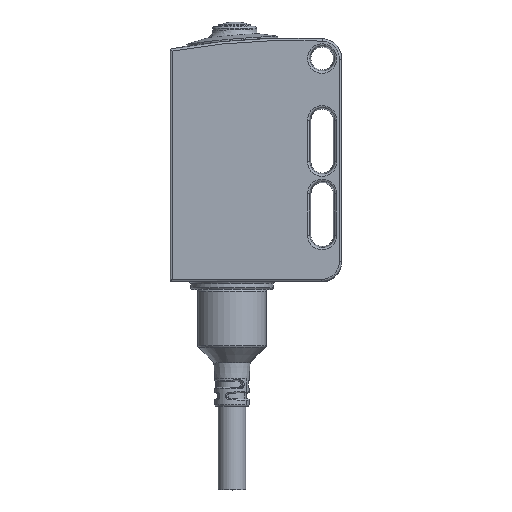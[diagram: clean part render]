
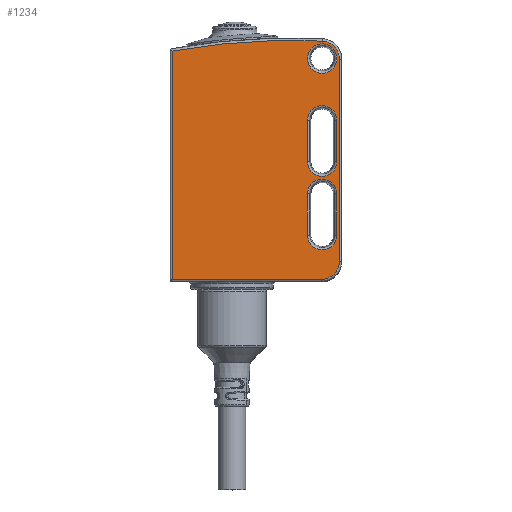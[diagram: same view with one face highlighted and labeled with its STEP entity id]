
A CAD part, top view. The second image highlights one B-rep face of the part: STEP entity #1234.
In plain terms, the highlighted planar face has unit normal (0, 0, 1).
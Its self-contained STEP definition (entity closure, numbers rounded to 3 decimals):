
#827=LINE('',#4710,#947);
#828=LINE('',#4715,#948);
#829=LINE('',#4718,#949);
#830=LINE('',#4723,#950);
#831=LINE('',#4731,#951);
#832=LINE('',#4733,#952);
#833=LINE('',#4737,#953);
#947=VECTOR('',#3643,1.);
#948=VECTOR('',#3646,1.);
#949=VECTOR('',#3649,1.);
#950=VECTOR('',#3652,1.);
#951=VECTOR('',#3659,1.);
#952=VECTOR('',#3660,1.);
#953=VECTOR('',#3663,1.);
#1234=ADVANCED_FACE('',(#1431,#1432,#1433,#1434),#1386,.T.);
#1386=PLANE('',#3258);
#1431=FACE_BOUND('',#1524,.T.);
#1432=FACE_BOUND('',#1525,.T.);
#1433=FACE_BOUND('',#1526,.T.);
#1434=FACE_BOUND('',#1527,.T.);
#1524=EDGE_LOOP('',(#1824));
#1525=EDGE_LOOP('',(#1825,#1826,#1827,#1828));
#1526=EDGE_LOOP('',(#1829,#1830,#1831,#1832));
#1527=EDGE_LOOP('',(#1833,#1834,#1835,#1836,#1837,#1838));
#1824=ORIENTED_EDGE('',*,*,#2796,.T.);
#1825=ORIENTED_EDGE('',*,*,#2797,.T.);
#1826=ORIENTED_EDGE('',*,*,#2798,.T.);
#1827=ORIENTED_EDGE('',*,*,#2799,.T.);
#1828=ORIENTED_EDGE('',*,*,#2800,.T.);
#1829=ORIENTED_EDGE('',*,*,#2801,.T.);
#1830=ORIENTED_EDGE('',*,*,#2802,.T.);
#1831=ORIENTED_EDGE('',*,*,#2803,.T.);
#1832=ORIENTED_EDGE('',*,*,#2804,.T.);
#1833=ORIENTED_EDGE('',*,*,#2805,.T.);
#1834=ORIENTED_EDGE('',*,*,#2806,.T.);
#1835=ORIENTED_EDGE('',*,*,#2807,.T.);
#1836=ORIENTED_EDGE('',*,*,#2808,.T.);
#1837=ORIENTED_EDGE('',*,*,#2809,.T.);
#1838=ORIENTED_EDGE('',*,*,#2810,.T.);
#2539=VERTEX_POINT('',#4709);
#2540=VERTEX_POINT('',#4711);
#2541=VERTEX_POINT('',#4712);
#2542=VERTEX_POINT('',#4714);
#2543=VERTEX_POINT('',#4716);
#2544=VERTEX_POINT('',#4719);
#2545=VERTEX_POINT('',#4720);
#2546=VERTEX_POINT('',#4722);
#2547=VERTEX_POINT('',#4724);
#2548=VERTEX_POINT('',#4727);
#2549=VERTEX_POINT('',#4728);
#2550=VERTEX_POINT('',#4730);
#2551=VERTEX_POINT('',#4732);
#2552=VERTEX_POINT('',#4734);
#2553=VERTEX_POINT('',#4736);
#2796=EDGE_CURVE('',#2539,#2539,#3101,.T.);
#2797=EDGE_CURVE('',#2540,#2541,#827,.T.);
#2798=EDGE_CURVE('',#2541,#2542,#3102,.T.);
#2799=EDGE_CURVE('',#2542,#2543,#828,.T.);
#2800=EDGE_CURVE('',#2543,#2540,#3103,.T.);
#2801=EDGE_CURVE('',#2544,#2545,#829,.T.);
#2802=EDGE_CURVE('',#2545,#2546,#3104,.T.);
#2803=EDGE_CURVE('',#2546,#2547,#830,.T.);
#2804=EDGE_CURVE('',#2547,#2544,#3105,.T.);
#2805=EDGE_CURVE('',#2548,#2549,#3106,.T.);
#2806=EDGE_CURVE('',#2549,#2550,#3107,.T.);
#2807=EDGE_CURVE('',#2550,#2551,#831,.T.);
#2808=EDGE_CURVE('',#2551,#2552,#832,.T.);
#2809=EDGE_CURVE('',#2552,#2553,#3108,.T.);
#2810=EDGE_CURVE('',#2553,#2548,#833,.T.);
#3101=CIRCLE('',#3250,2.141);
#3102=CIRCLE('',#3251,2.141);
#3103=CIRCLE('',#3252,2.141);
#3104=CIRCLE('',#3253,2.141);
#3105=CIRCLE('',#3254,2.141);
#3106=CIRCLE('',#3255,2.642);
#3107=CIRCLE('',#3256,99.642);
#3108=CIRCLE('',#3257,2.642);
#3250=AXIS2_PLACEMENT_3D('',#4708,#3641,#3642);
#3251=AXIS2_PLACEMENT_3D('',#4713,#3644,#3645);
#3252=AXIS2_PLACEMENT_3D('',#4717,#3647,#3648);
#3253=AXIS2_PLACEMENT_3D('',#4721,#3650,#3651);
#3254=AXIS2_PLACEMENT_3D('',#4725,#3653,#3654);
#3255=AXIS2_PLACEMENT_3D('',#4726,#3655,#3656);
#3256=AXIS2_PLACEMENT_3D('',#4729,#3657,#3658);
#3257=AXIS2_PLACEMENT_3D('',#4735,#3661,#3662);
#3258=AXIS2_PLACEMENT_3D('',#4738,#3664,#3665);
#3641=DIRECTION('',(0.,0.,-1.));
#3642=DIRECTION('',(1.,0.,0.));
#3643=DIRECTION('',(0.,1.,0.));
#3644=DIRECTION('',(0.,0.,-1.));
#3645=DIRECTION('',(1.,0.,0.));
#3646=DIRECTION('',(0.,-1.,0.));
#3647=DIRECTION('',(0.,0.,-1.));
#3648=DIRECTION('',(1.,0.,0.));
#3649=DIRECTION('',(0.,-1.,0.));
#3650=DIRECTION('',(0.,0.,-1.));
#3651=DIRECTION('',(1.,0.,0.));
#3652=DIRECTION('',(0.,1.,0.));
#3653=DIRECTION('',(0.,0.,-1.));
#3654=DIRECTION('',(1.,0.,0.));
#3655=DIRECTION('',(0.,0.,1.));
#3656=DIRECTION('',(1.,0.,0.));
#3657=DIRECTION('',(0.,0.,1.));
#3658=DIRECTION('',(1.,0.,0.));
#3659=DIRECTION('',(0.,-1.,0.));
#3660=DIRECTION('',(1.,0.,0.));
#3661=DIRECTION('',(0.,0.,1.));
#3662=DIRECTION('',(1.,0.,0.));
#3663=DIRECTION('',(0.,1.,0.));
#3664=DIRECTION('',(0.,0.,1.));
#3665=DIRECTION('',(1.,0.,0.));
#4708=CARTESIAN_POINT('',(22.129,32.5,14.));
#4709=CARTESIAN_POINT('',(24.271,32.5,14.));
#4710=CARTESIAN_POINT('',(19.988,23.5,14.));
#4711=CARTESIAN_POINT('',(19.988,17.5,14.));
#4712=CARTESIAN_POINT('',(19.988,23.5,14.));
#4713=CARTESIAN_POINT('',(22.129,23.5,14.));
#4714=CARTESIAN_POINT('',(24.271,23.5,14.));
#4715=CARTESIAN_POINT('',(24.271,17.5,14.));
#4716=CARTESIAN_POINT('',(24.271,17.5,14.));
#4717=CARTESIAN_POINT('',(22.129,17.5,14.));
#4718=CARTESIAN_POINT('',(24.271,6.8,14.));
#4719=CARTESIAN_POINT('',(24.271,12.8,14.));
#4720=CARTESIAN_POINT('',(24.271,6.8,14.));
#4721=CARTESIAN_POINT('',(22.129,6.8,14.));
#4722=CARTESIAN_POINT('',(19.988,6.8,14.));
#4723=CARTESIAN_POINT('',(19.988,12.8,14.));
#4724=CARTESIAN_POINT('',(19.988,12.8,14.));
#4725=CARTESIAN_POINT('',(22.129,12.8,14.));
#4726=CARTESIAN_POINT('',(22.,32.41,14.));
#4727=CARTESIAN_POINT('',(24.642,32.41,14.));
#4728=CARTESIAN_POINT('',(22.114,35.049,14.));
#4729=CARTESIAN_POINT('',(17.817,-64.5,14.));
#4730=CARTESIAN_POINT('',(0.3,33.59,14.));
#4731=CARTESIAN_POINT('',(0.3,0.161,14.));
#4732=CARTESIAN_POINT('',(0.3,0.358,14.));
#4733=CARTESIAN_POINT('',(22.,0.358,14.));
#4734=CARTESIAN_POINT('',(22.,0.358,14.));
#4735=CARTESIAN_POINT('',(22.,3.,14.));
#4736=CARTESIAN_POINT('',(24.642,3.,14.));
#4737=CARTESIAN_POINT('',(24.642,32.41,14.));
#4738=CARTESIAN_POINT('',(22.,32.41,14.));
